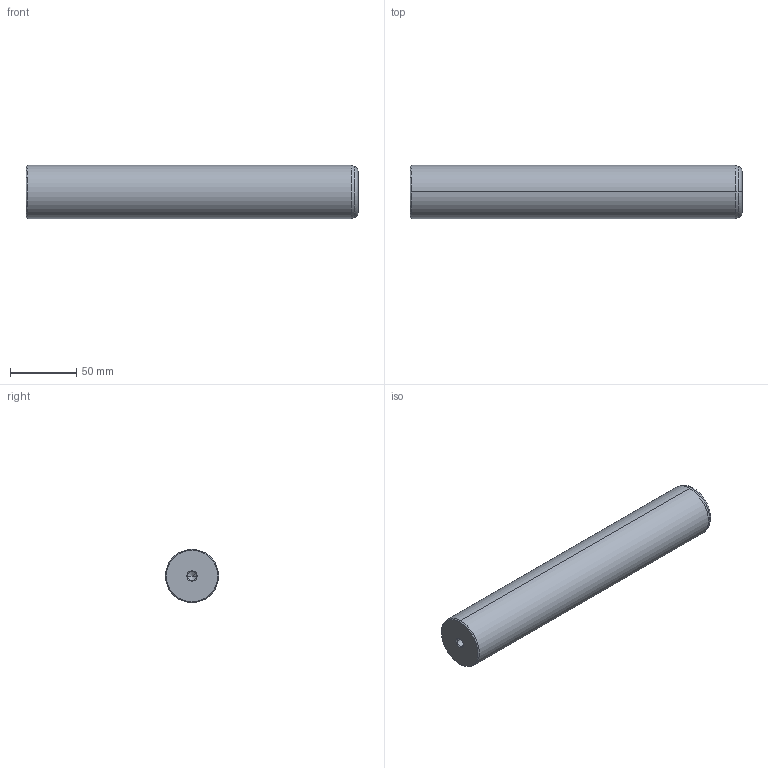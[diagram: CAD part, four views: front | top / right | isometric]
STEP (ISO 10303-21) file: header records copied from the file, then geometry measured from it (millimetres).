
FILE_DESCRIPTION(('CATIA V5 STEP Exchange'),'2;1');
FILE_NAME('C:\Users\Utente\Desktop\IO LAVORO\3D X SITO CF\X SITO\720\720-40x250.stp','2020-12-30T21:58:38+00:00',('none'),('none'),'CATIA Version 5 Release 20 GA (IN-10)','CATIA V5 STEP AP203','none');
FILE_SCHEMA(('CONFIG_CONTROL_DESIGN'));
Length unit declared in the file: millimetre
Products named in the file (1): 720-40x250
Bounding box: 250 x 40 x 40 mm (x, y, z)
Volume: 311785.5 mm3; surface area: 34600.1 mm2
Topology: 1 solids, 1 shells, 22 faces, 56 edges, 34 vertices
Faces by surface type: cone 12, cylinder 6, plane 2, torus 2
Entity records: 755 total; most frequent: CARTESIAN_POINT 216, ORIENTED_EDGE 104, DIRECTION 89, EDGE_CURVE 52, AXIS2_PLACEMENT_3D 50, VERTEX_POINT 34, CIRCLE 27, EDGE_LOOP 24
